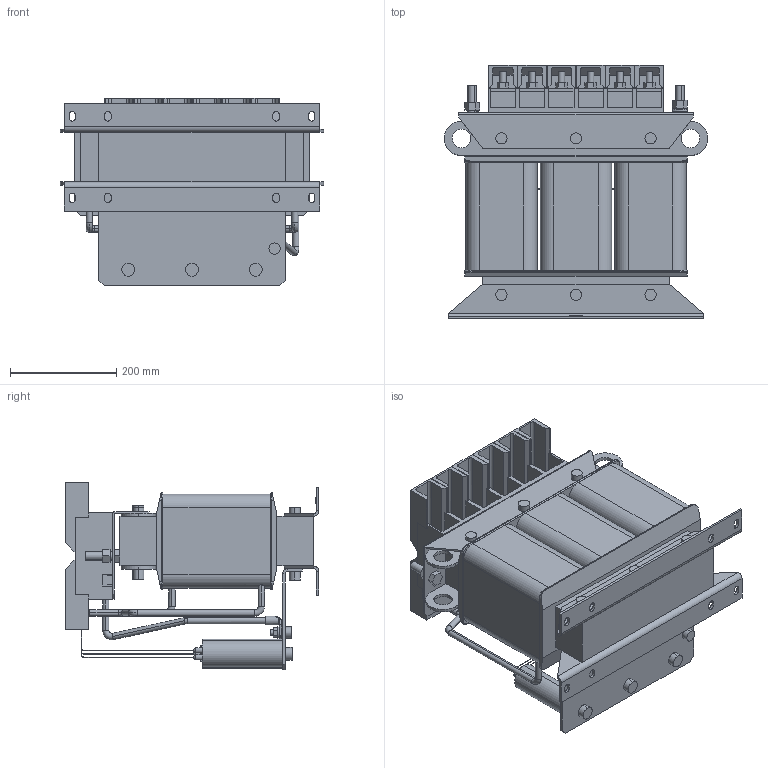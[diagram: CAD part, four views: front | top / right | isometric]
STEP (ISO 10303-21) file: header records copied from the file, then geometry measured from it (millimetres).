
FILE_DESCRIPTION (( 'STEP AP214' ), '1' );
FILE_NAME ('00Z1GX4-0025.STEP', '2023-03-09T09:06:34', ( '' ), ( '' ), 'SwSTEP 2.0', 'SolidWorks 2022', '' );
FILE_SCHEMA (( 'AUTOMOTIVE_DESIGN' ));
Length unit declared in the file: millimetre
Products named in the file (1): 00Z1GX4-0025
Bounding box: 495 x 476.52 x 352.3 mm (x, y, z)
Volume: 27618792.7 mm3; surface area: 1697401.8 mm2
Topology: 1 solids, 1 shells, 1047 faces, 2694 edges, 1725 vertices
Faces by surface type: plane 551, cylinder 347, torus 102, bspline 29, cone 18
Entity records: 38738 total; most frequent: CARTESIAN_POINT 12644, ORIENTED_EDGE 5388, DIRECTION 5383, EDGE_CURVE 2694, AXIS2_PLACEMENT_3D 1868, VERTEX_POINT 1725, VECTOR 1647, LINE 1647
